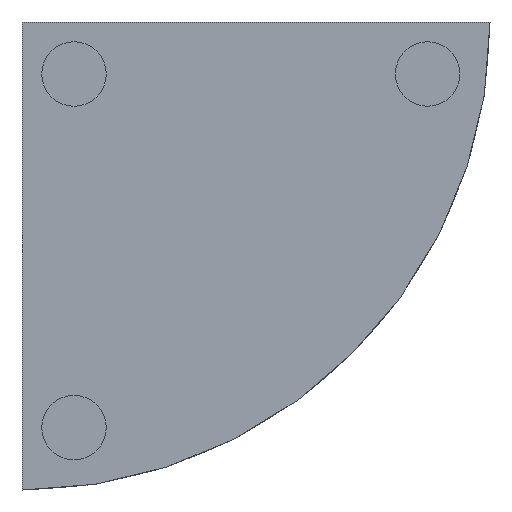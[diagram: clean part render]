
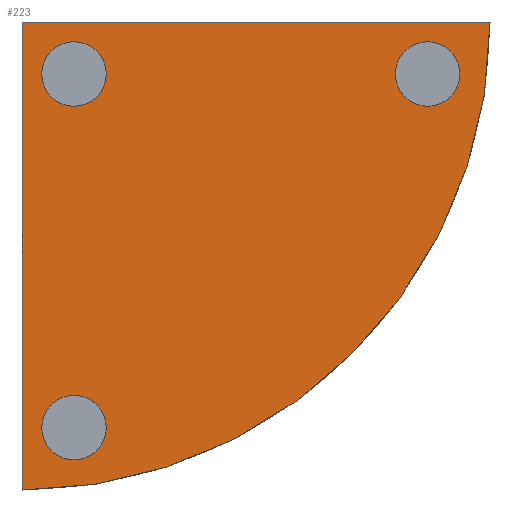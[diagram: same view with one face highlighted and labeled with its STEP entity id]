
A CAD part, front view. The second image highlights one B-rep face of the part: STEP entity #223.
In plain terms, the highlighted planar face has unit normal (0, -1, 0).
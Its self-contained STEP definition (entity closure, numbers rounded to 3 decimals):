
#1=CARTESIAN_POINT('',(5.,0.,-5.));
#2=DIRECTION('',(0.,-1.,0.));
#3=DIRECTION('',(-1.,0.,0.));
#4=AXIS2_PLACEMENT_3D('',#1,#2,#3);
#6=CARTESIAN_POINT('',(5.,0.,-5.));
#7=DIRECTION('',(0.,-1.,0.));
#8=DIRECTION('',(1.,0.,0.));
#9=AXIS2_PLACEMENT_3D('',#6,#7,#8);
#11=CARTESIAN_POINT('',(5.,0.,-39.));
#12=DIRECTION('',(0.,-1.,0.));
#13=DIRECTION('',(-1.,0.,0.));
#14=AXIS2_PLACEMENT_3D('',#11,#12,#13);
#16=CARTESIAN_POINT('',(5.,0.,-39.));
#17=DIRECTION('',(0.,-1.,0.));
#18=DIRECTION('',(1.,0.,0.));
#19=AXIS2_PLACEMENT_3D('',#16,#17,#18);
#21=CARTESIAN_POINT('',(39.,0.,-5.));
#22=DIRECTION('',(0.,-1.,0.));
#23=DIRECTION('',(-1.,0.,0.));
#24=AXIS2_PLACEMENT_3D('',#21,#22,#23);
#26=CARTESIAN_POINT('',(39.,0.,-5.));
#27=DIRECTION('',(0.,-1.,0.));
#28=DIRECTION('',(1.,0.,0.));
#29=AXIS2_PLACEMENT_3D('',#26,#27,#28);
#85=DIRECTION('',(0.,0.,1.));
#86=VECTOR('',#85,45.);
#87=CARTESIAN_POINT('',(0.,0.,-45.));
#88=LINE('',#87,#86);
#93=CARTESIAN_POINT('',(0.,0.,0.));
#94=DIRECTION('',(0.,1.,0.));
#95=DIRECTION('',(1.,0.,0.));
#96=AXIS2_PLACEMENT_3D('',#93,#94,#95);
#137=DIRECTION('',(1.,0.,0.));
#138=VECTOR('',#137,45.);
#139=CARTESIAN_POINT('',(0.,0.,0.));
#140=LINE('',#139,#138);
#160=CARTESIAN_POINT('',(1.9,0.,-5.));
#161=CARTESIAN_POINT('',(8.1,0.,-5.));
#162=VERTEX_POINT('',#160);
#163=VERTEX_POINT('',#161);
#172=CARTESIAN_POINT('',(1.9,0.,-39.));
#173=CARTESIAN_POINT('',(8.1,0.,-39.));
#174=VERTEX_POINT('',#172);
#175=VERTEX_POINT('',#173);
#176=CARTESIAN_POINT('',(35.9,0.,-5.));
#177=CARTESIAN_POINT('',(42.1,0.,-5.));
#178=VERTEX_POINT('',#176);
#179=VERTEX_POINT('',#177);
#180=CARTESIAN_POINT('',(0.,0.,-45.));
#181=CARTESIAN_POINT('',(0.,0.,0.));
#182=VERTEX_POINT('',#180);
#183=VERTEX_POINT('',#181);
#190=CARTESIAN_POINT('',(45.,0.,0.));
#191=VERTEX_POINT('',#190);
#192=CARTESIAN_POINT('',(0.,0.,0.));
#193=DIRECTION('',(0.,1.,0.));
#194=DIRECTION('',(1.,0.,0.));
#195=AXIS2_PLACEMENT_3D('',#192,#193,#194);
#196=PLANE('',#195);
#198=ORIENTED_EDGE('',*,*,#197,.T.);
#200=ORIENTED_EDGE('',*,*,#199,.T.);
#202=ORIENTED_EDGE('',*,*,#201,.T.);
#203=EDGE_LOOP('',(#198,#200,#202));
#204=FACE_OUTER_BOUND('',#203,.F.);
#206=ORIENTED_EDGE('',*,*,#205,.T.);
#208=ORIENTED_EDGE('',*,*,#207,.T.);
#209=EDGE_LOOP('',(#206,#208));
#210=FACE_BOUND('',#209,.F.);
#212=ORIENTED_EDGE('',*,*,#211,.T.);
#214=ORIENTED_EDGE('',*,*,#213,.T.);
#215=EDGE_LOOP('',(#212,#214));
#216=FACE_BOUND('',#215,.F.);
#218=ORIENTED_EDGE('',*,*,#217,.T.);
#220=ORIENTED_EDGE('',*,*,#219,.T.);
#221=EDGE_LOOP('',(#218,#220));
#222=FACE_BOUND('',#221,.F.);
#223=ADVANCED_FACE('',(#204,#210,#216,#222),#196,.F.);
#5=CIRCLE('',#4,3.1);
#10=CIRCLE('',#9,3.1);
#15=CIRCLE('',#14,3.1);
#20=CIRCLE('',#19,3.1);
#25=CIRCLE('',#24,3.1);
#30=CIRCLE('',#29,3.1);
#97=CIRCLE('',#96,45.);
#197=EDGE_CURVE('',#182,#183,#88,.T.);
#199=EDGE_CURVE('',#183,#191,#140,.T.);
#201=EDGE_CURVE('',#191,#182,#97,.T.);
#205=EDGE_CURVE('',#162,#163,#5,.T.);
#207=EDGE_CURVE('',#163,#162,#10,.T.);
#211=EDGE_CURVE('',#174,#175,#15,.T.);
#213=EDGE_CURVE('',#175,#174,#20,.T.);
#217=EDGE_CURVE('',#178,#179,#25,.T.);
#219=EDGE_CURVE('',#179,#178,#30,.T.);
